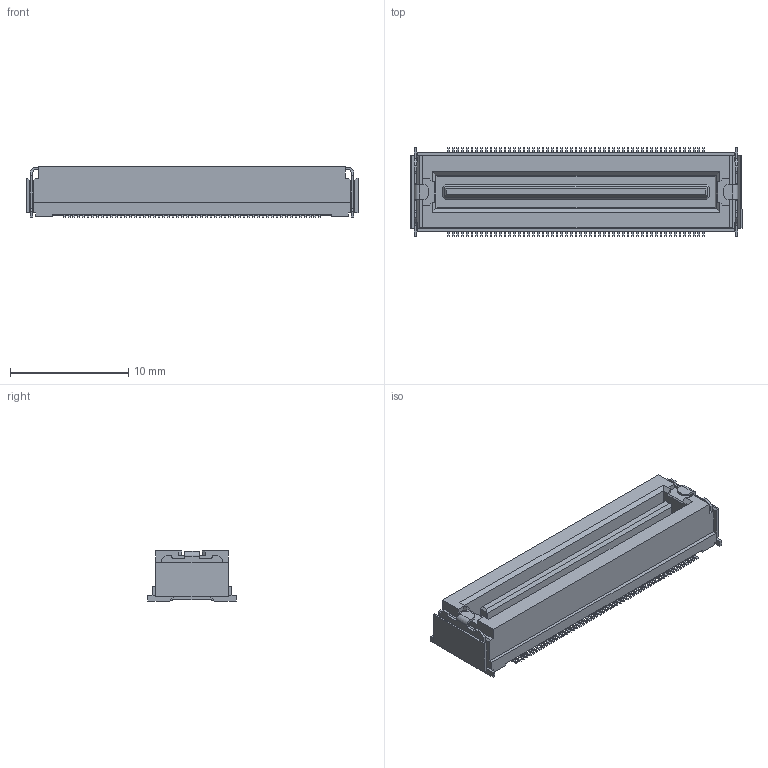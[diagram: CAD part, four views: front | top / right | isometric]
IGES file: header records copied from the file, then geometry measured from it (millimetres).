
Start section: Elysium IGES Interface
Global section: file name: C:\Users\1354\Desktop\P3D161_DU00-110SB\P3D161_DU00-110SB.igs; native system: Creo Elements/Direct Modeling 19.0F  14-Feb-2017; preprocessor: Creo Element/Direct IGES_3D V2.2; author: Unknown; organization: Unknown; date: 20171127.154647; units: millimetre
Bounding box: 28.1 x 7.5 x 4.25 mm (x, y, z)
Volume: 558.6 mm3; surface area: 1003.2 mm2
Topology: 1 solids, 1 shells, 1129 faces, 3189 edges, 2118 vertices
Faces by surface type: bspline 1129
